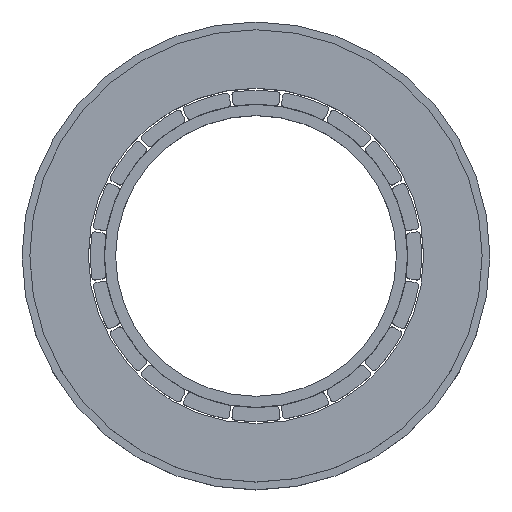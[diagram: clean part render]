
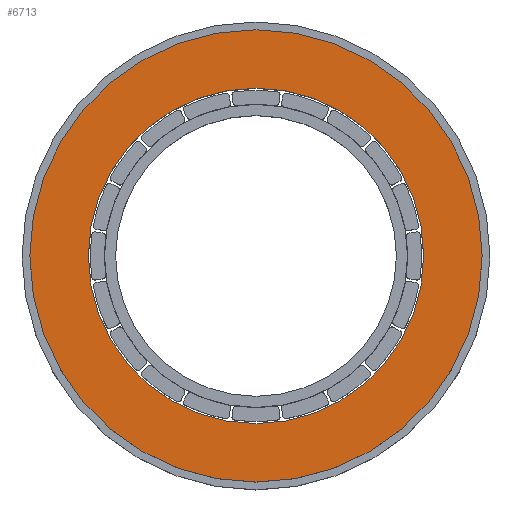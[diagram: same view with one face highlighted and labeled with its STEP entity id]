
A CAD part, top view. The second image highlights one B-rep face of the part: STEP entity #6713.
In plain terms, the highlighted planar face has unit normal (0, 0, 1).
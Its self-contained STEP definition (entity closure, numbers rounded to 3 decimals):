
#6686=CARTESIAN_POINT('',(0.,-7.771,3.5));
#6687=DIRECTION('',(0.,1.,0.));
#6688=DIRECTION('',(0.,0.,1.));
#6689=AXIS2_PLACEMENT_3D('',#6686,#6688,#6687);
#6690=PLANE('',#6689);
#6691=CARTESIAN_POINT('',(0.,29.,3.5));
#6692=VERTEX_POINT('',#6691);
#6693=CARTESIAN_POINT('',(0.,0.,3.5));
#6694=DIRECTION('',(0.,1.,-0.));
#6695=DIRECTION('',(0.,0.,1.));
#6696=AXIS2_PLACEMENT_3D('',#6693,#6695,#6694);
#6697=CIRCLE('',#6696,29.);
#6698=EDGE_CURVE('',#6692,#6692,#6697,.T.);
#6699=ORIENTED_EDGE('',*,*,#6698,.T.);
#6700=EDGE_LOOP('',(#6699));
#6701=FACE_OUTER_BOUND('',#6700,.T.);
#6702=CARTESIAN_POINT('',(0.,21.5,3.5));
#6703=VERTEX_POINT('',#6702);
#6704=CARTESIAN_POINT('',(0.,0.,3.5));
#6705=DIRECTION('',(0.,1.,0.));
#6706=DIRECTION('',(0.,0.,-1.));
#6707=AXIS2_PLACEMENT_3D('',#6704,#6706,#6705);
#6708=CIRCLE('',#6707,21.5);
#6709=EDGE_CURVE('',#6703,#6703,#6708,.T.);
#6710=ORIENTED_EDGE('',*,*,#6709,.T.);
#6711=EDGE_LOOP('',(#6710));
#6712=FACE_BOUND('',#6711,.T.);
#6713=ADVANCED_FACE('',(#6701,#6712),#6690,.T.);
